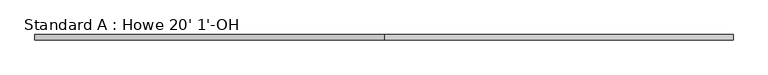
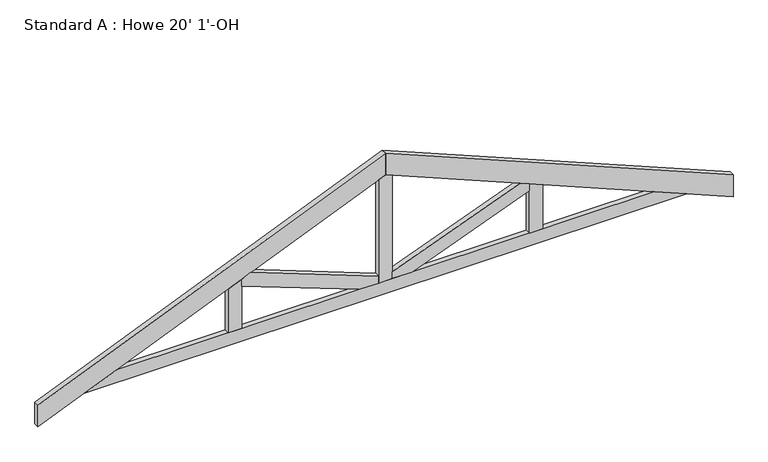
"""IFC4 building model written with IfcOpenShell, lengths in millimetres: beam geometry, Standard A : Howe 20' 1'-OH."""

from ifc_helpers import new_model, si_unit, frame, origin, place, context, project, spatial, polyline, outline, extrude, source, transform, mapped, element, save


def standard_a_howe_20_1_oh_88b42b15(model_context):
    return source(origin(), model_context, "Body", "SweptSolid", [
        extrude(outline(polyline([(456.6708313, 885.1972814), (137.0461415, 45.0), (88.9, 45.0), (88.9, 171.561741), (383.3567233, 945.6), (431.5028648, 945.6), (456.6708313, 885.1972814)])), frame((0.0, -35.0, 0.0), z_axis=(0.0, 1.0, 0.0), x_axis=(0.0, 0.0, 1.0)), (0.0, 0.0, 1.0), 35.0),
        extrude(outline(polyline([(137.0461415, -45.0), (456.6708313, -885.1972814), (431.5028648, -945.6), (383.3567233, -945.6), (88.9, -171.561741), (88.9, -45.0), (137.0461415, -45.0)])), frame((0.0, -35.0, 0.0), z_axis=(0.0, 1.0, 0.0), x_axis=(0.0, 0.0, 1.0)), (0.0, 0.0, 1.0), 35.0),
        extrude(outline(polyline([(88.9, 1035.6), (394.0026158, 1035.6), (431.5028648, 945.6), (88.9, 945.6), (88.9, 1035.6)])), frame((0.0, -35.0, 0.0), z_axis=(0.0, 1.0, 0.0), x_axis=(0.0, 0.0, 1.0)), (0.0, 0.0, 1.0), 35.0),
        extrude(outline(polyline([(88.9, 45.0), (806.7553562, 45.0), (825.5054806, 0.0), (806.7553562, -45.0), (88.9, -45.0), (88.9, 45.0)])), frame((0.0, -35.0, 0.0), z_axis=(0.0, 1.0, 0.0), x_axis=(0.0, 0.0, 1.0)), (0.0, 0.0, 1.0), 35.0),
        extrude(outline(polyline([(88.9, -945.6), (431.5028648, -945.6), (394.0026158, -1035.6), (88.9, -1035.6), (88.9, -945.6)])), frame((0.0, -35.0, 0.0), z_axis=(0.0, 1.0, 0.0), x_axis=(0.0, 0.0, 1.0)), (0.0, 0.0, 1.0), 35.0),
        extrude(outline(polyline([(0.0, 1981.2), (88.9, 1767.8414165), (88.9, -1767.8414165), (0.0, -1981.2), (0.0, 1981.2)])), frame((0.0, -35.0, 0.0), z_axis=(0.0, 1.0, 0.0), x_axis=(0.0, 0.0, 1.0)), (0.0, 0.0, 1.0), 35.0),
        extrude(outline(polyline([(976.8472959, 0.0), (825.5054806, 0.0), (-127.0008432, 2286.0), (24.3409721, 2286.0), (976.8472959, 0.0)])), frame((0.0, -35.0, 0.0), z_axis=(0.0, 1.0, 0.0), x_axis=(0.0, 0.0, 1.0)), (0.0, 0.0, 1.0), 35.0),
        extrude(outline(polyline([(976.8472959, 0.0), (24.3409721, -2286.0), (-127.0008432, -2286.0), (825.5054806, 0.0), (976.8472959, 0.0)])), frame((0.0, -35.0, 0.0), z_axis=(0.0, 1.0, 0.0), x_axis=(0.0, 0.0, 1.0)), (0.0, 0.0, 1.0), 35.0),
    ])


if __name__ == "__main__":
    model = new_model("IFC4")
    model_context = context("Model", 3, world=origin())
    ifc_project = project(units=[si_unit("LENGTHUNIT", "METRE", prefix="MILLI")], contexts=[model_context])
    site = spatial("IfcSite", under=ifc_project)
    building = spatial("IfcBuilding", under=site)
    placement = place(None, origin())
    standard_a_howe_20_1_oh_shape = standard_a_howe_20_1_oh_88b42b15(model_context)
    element("IfcBeam", 1, ObjectType="Standard A : Howe 20' 1'-OH", at=placement, inside=building, context=model_context, shape_type="MappedRepresentation", body=[
        mapped(standard_a_howe_20_1_oh_shape, transform((0.0, 0.0, 0.0), x_axis=(1.0, 0.0, 0.0), y_axis=(0.0, 1.0, 0.0), z_axis=(0.0, 0.0, 1.0))),
    ])
    save(model, "model.ifc")
